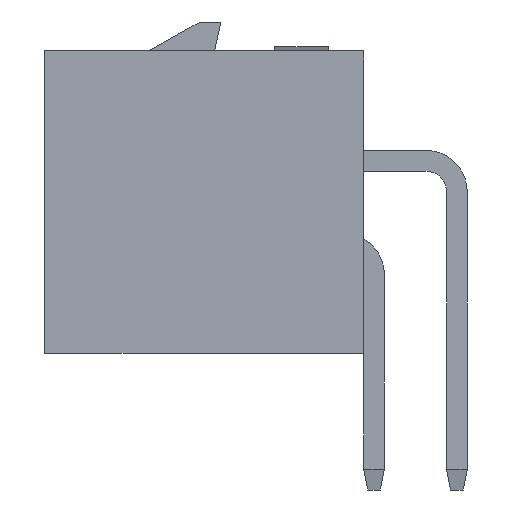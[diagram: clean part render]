
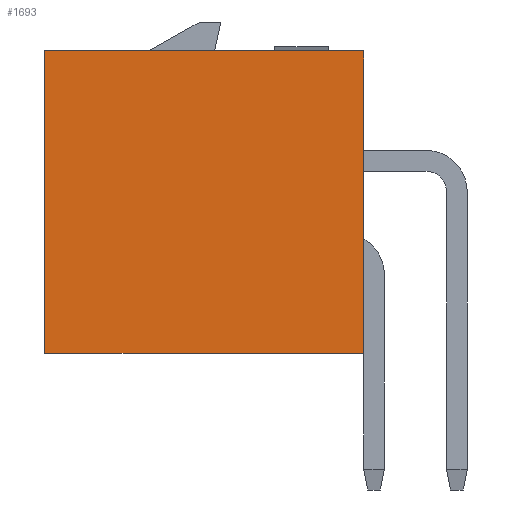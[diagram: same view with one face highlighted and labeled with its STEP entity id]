
A CAD part, left-side view. The second image highlights one B-rep face of the part: STEP entity #1693.
In plain terms, the highlighted planar face has unit normal (-1, 0, 0).
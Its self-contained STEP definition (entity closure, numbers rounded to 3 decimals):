
#178 = ORIENTED_EDGE ( 'NONE', *, *, #913, .F. ) ;
#440 = DIRECTION ( 'NONE',  ( 0., 1., 0. ) ) ;
#787 = ORIENTED_EDGE ( 'NONE', *, *, #5843, .T. ) ;
#913 = EDGE_CURVE ( 'NONE', #6157, #8404, #12068, .T. ) ;
#1442 = CARTESIAN_POINT ( 'NONE',  ( -9.153, 6.167, -3.65 ) ) ;
#1640 = CARTESIAN_POINT ( 'NONE',  ( -9.153, -1.533, 3.65 ) ) ;
#1693 = ADVANCED_FACE ( 'NONE', ( #3567 ), #2685, .F. ) ;
#2685 = PLANE ( 'NONE',  #5253 ) ;
#3472 = VECTOR ( 'NONE', #5398, 1000. ) ;
#3567 = FACE_OUTER_BOUND ( 'NONE', #5751, .T. ) ;
#4847 = VECTOR ( 'NONE', #10506, 1000. ) ;
#5253 = AXIS2_PLACEMENT_3D ( 'NONE', #12903, #5641, #7679 ) ;
#5398 = DIRECTION ( 'NONE',  ( 0., 0., -1. ) ) ;
#5474 = VECTOR ( 'NONE', #9002, 1000. ) ;
#5641 = DIRECTION ( 'NONE',  ( 1., 0., 0. ) ) ;
#5751 = EDGE_LOOP ( 'NONE', ( #178, #787, #10747, #8919 ) ) ;
#5843 = EDGE_CURVE ( 'NONE', #6157, #11518, #10568, .T. ) ;
#6157 = VERTEX_POINT ( 'NONE', #10001 ) ;
#7679 = DIRECTION ( 'NONE',  ( 0., 0., 1. ) ) ;
#7970 = CARTESIAN_POINT ( 'NONE',  ( -9.153, -1.533, -3.65 ) ) ;
#8364 = LINE ( 'NONE', #11304, #3472 ) ;
#8404 = VERTEX_POINT ( 'NONE', #7970 ) ;
#8919 = ORIENTED_EDGE ( 'NONE', *, *, #10078, .F. ) ;
#8981 = VECTOR ( 'NONE', #440, 1000. ) ;
#9002 = DIRECTION ( 'NONE',  ( 0., 0., -1. ) ) ;
#9464 = CARTESIAN_POINT ( 'NONE',  ( -9.153, 6.167, 3.65 ) ) ;
#10001 = CARTESIAN_POINT ( 'NONE',  ( -9.153, -1.533, 3.65 ) ) ;
#10078 = EDGE_CURVE ( 'NONE', #8404, #10941, #11116, .T. ) ;
#10311 = CARTESIAN_POINT ( 'NONE',  ( -9.153, 6.167, 3.65 ) ) ;
#10506 = DIRECTION ( 'NONE',  ( 0., 1., 0. ) ) ;
#10568 = LINE ( 'NONE', #10311, #4847 ) ;
#10747 = ORIENTED_EDGE ( 'NONE', *, *, #11511, .T. ) ;
#10941 = VERTEX_POINT ( 'NONE', #11891 ) ;
#11116 = LINE ( 'NONE', #1442, #8981 ) ;
#11304 = CARTESIAN_POINT ( 'NONE',  ( -9.153, 6.167, 3.65 ) ) ;
#11511 = EDGE_CURVE ( 'NONE', #11518, #10941, #8364, .T. ) ;
#11518 = VERTEX_POINT ( 'NONE', #9464 ) ;
#11891 = CARTESIAN_POINT ( 'NONE',  ( -9.153, 6.167, -3.65 ) ) ;
#12068 = LINE ( 'NONE', #1640, #5474 ) ;
#12903 = CARTESIAN_POINT ( 'NONE',  ( -9.153, 6.167, 3.65 ) ) ;
